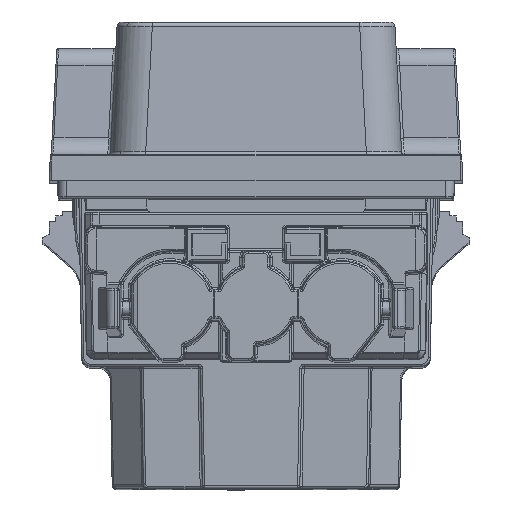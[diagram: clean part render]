
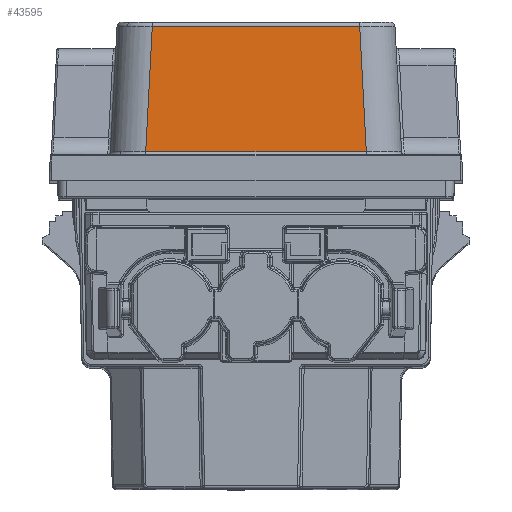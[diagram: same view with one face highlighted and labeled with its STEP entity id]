
A CAD part, top view. The second image highlights one B-rep face of the part: STEP entity #43595.
In plain terms, the highlighted planar face has unit normal (0, 0.052, 0.999).
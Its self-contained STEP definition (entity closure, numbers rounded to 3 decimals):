
#1765 = ORIENTED_EDGE ( 'NONE', *, *, #14143, .T. ) ;
#11254 = VECTOR ( 'NONE', #131271, 1000. ) ;
#11786 = LINE ( 'NONE', #46884, #63087 ) ;
#14143 = EDGE_CURVE ( 'NONE', #86808, #56580, #11786, .T. ) ;
#16713 = VECTOR ( 'NONE', #75616, 1000. ) ;
#21543 = CARTESIAN_POINT ( 'NONE',  ( 11.73, 17.792, 58.225 ) ) ;
#27274 = PLANE ( 'NONE',  #58512 ) ;
#35222 = EDGE_LOOP ( 'NONE', ( #54607, #144307, #1765, #131819 ) ) ;
#40702 = FACE_OUTER_BOUND ( 'NONE', #35222, .T. ) ;
#43595 = ADVANCED_FACE ( 'NONE', ( #40702 ), #27274, .T. ) ;
#45790 = CARTESIAN_POINT ( 'NONE',  ( 12.491, 3.284, 58.985 ) ) ;
#46884 = CARTESIAN_POINT ( 'NONE',  ( -12.516, 2.792, 59.011 ) ) ;
#49581 = EDGE_CURVE ( 'NONE', #56580, #90686, #98757, .T. ) ;
#54607 = ORIENTED_EDGE ( 'NONE', *, *, #111140, .T. ) ;
#54911 = CARTESIAN_POINT ( 'NONE',  ( -11.719, 17.526, 58.239 ) ) ;
#56580 = VERTEX_POINT ( 'NONE', #78260 ) ;
#58512 = AXIS2_PLACEMENT_3D ( 'NONE', #142166, #108577, #119004 ) ;
#58900 = CARTESIAN_POINT ( 'NONE',  ( -11.744, 17.526, 58.239 ) ) ;
#63087 = VECTOR ( 'NONE', #81920, 1000. ) ;
#65163 = CARTESIAN_POINT ( 'NONE',  ( 12.505, 3.284, 58.985 ) ) ;
#70059 = EDGE_CURVE ( 'NONE', #87627, #86808, #141730, .T. ) ;
#75616 = DIRECTION ( 'NONE',  ( 1., 0., 0. ) ) ;
#77518 = LINE ( 'NONE', #21543, #83772 ) ;
#78260 = CARTESIAN_POINT ( 'NONE',  ( -12.491, 3.284, 58.985 ) ) ;
#81920 = DIRECTION ( 'NONE',  ( -0.052, -0.997, 0.052 ) ) ;
#83772 = VECTOR ( 'NONE', #144707, 1000. ) ;
#86808 = VERTEX_POINT ( 'NONE', #58900 ) ;
#87627 = VERTEX_POINT ( 'NONE', #144070 ) ;
#90686 = VERTEX_POINT ( 'NONE', #45790 ) ;
#98757 = LINE ( 'NONE', #65163, #16713 ) ;
#108577 = DIRECTION ( 'NONE',  ( 0., 0.052, 0.999 ) ) ;
#111140 = EDGE_CURVE ( 'NONE', #90686, #87627, #77518, .T. ) ;
#119004 = DIRECTION ( 'NONE',  ( 0., -0.999, 0.052 ) ) ;
#131271 = DIRECTION ( 'NONE',  ( -1., 0., 0. ) ) ;
#131819 = ORIENTED_EDGE ( 'NONE', *, *, #49581, .T. ) ;
#141730 = LINE ( 'NONE', #54911, #11254 ) ;
#142166 = CARTESIAN_POINT ( 'NONE',  ( 22.3, 3., 59. ) ) ;
#144070 = CARTESIAN_POINT ( 'NONE',  ( 11.744, 17.526, 58.239 ) ) ;
#144307 = ORIENTED_EDGE ( 'NONE', *, *, #70059, .T. ) ;
#144707 = DIRECTION ( 'NONE',  ( -0.052, 0.997, -0.052 ) ) ;
